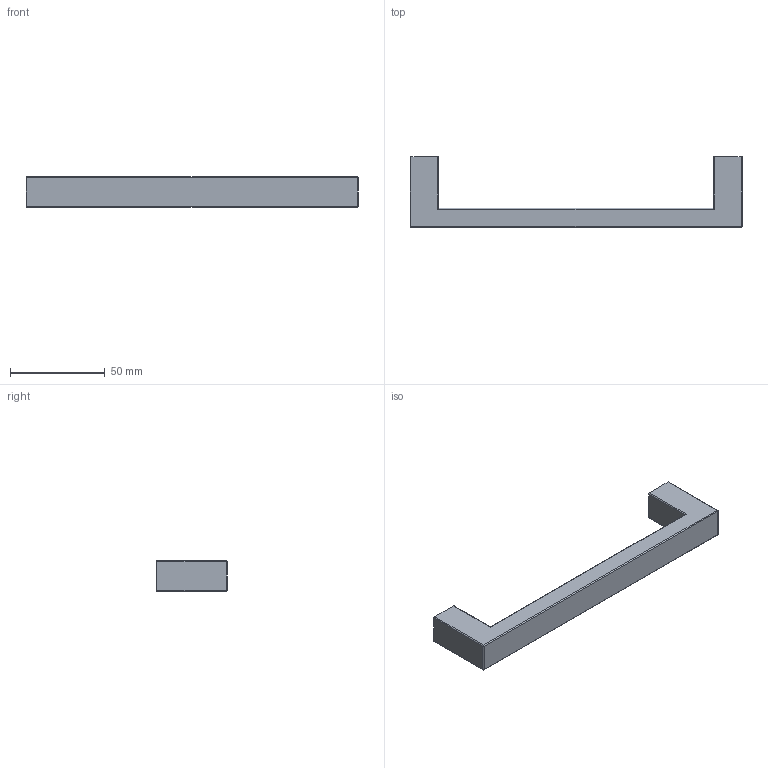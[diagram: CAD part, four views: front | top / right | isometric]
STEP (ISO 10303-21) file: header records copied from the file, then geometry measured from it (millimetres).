
FILE_DESCRIPTION( ( '' ), '1' );
FILE_NAME( 'C:/Documents and Settings/Sachin/Desktop/Sheet 10_1/stp/9069805.stp', '2013-10-22T06:52:34', ( '' ), ( '' ), ' ', ' ', ' ' );
FILE_SCHEMA( ( 'CONFIG_CONTROL_DESIGN' ) );
Length unit declared in the file: millimetre
Products named in the file (1): 1
Bounding box: 175 x 37 x 16 mm (x, y, z)
Volume: 40710.8 mm3; surface area: 12763.4 mm2
Topology: 1 solids, 1 shells, 36 faces, 88 edges, 56 vertices
Faces by surface type: cylinder 20, plane 16
Entity records: 1108 total; most frequent: DIRECTION 198, CARTESIAN_POINT 181, ORIENTED_EDGE 176, EDGE_CURVE 88, AXIS2_PLACEMENT_3D 73, VERTEX_POINT 56, LINE 52, VECTOR 52
